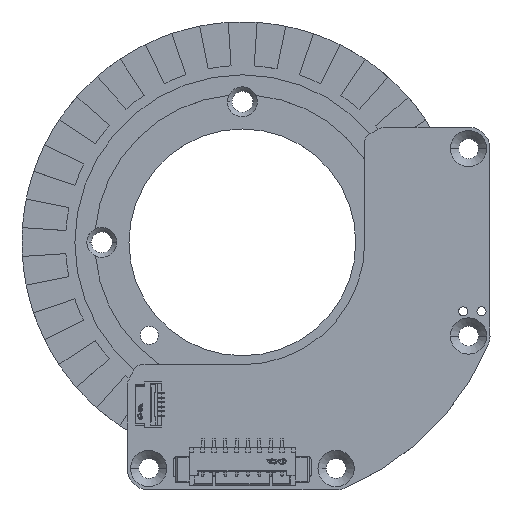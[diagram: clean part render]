
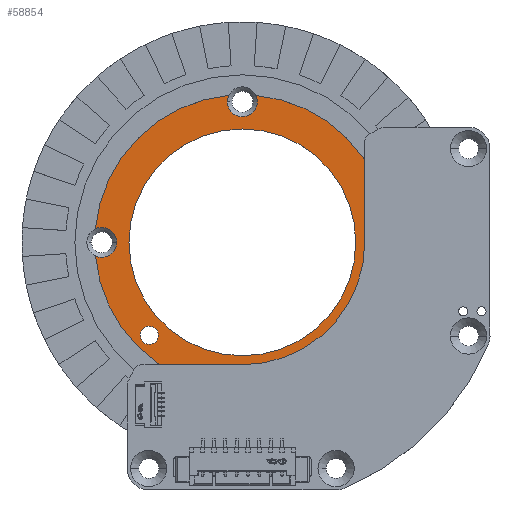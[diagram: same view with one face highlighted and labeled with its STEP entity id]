
A CAD part, top view. The second image highlights one B-rep face of the part: STEP entity #58854.
In plain terms, the highlighted planar face has unit normal (0, 0, 1) as drawn and (0, 1, 0) by its records, which use the part's own axes.
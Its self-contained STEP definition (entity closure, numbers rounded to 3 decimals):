
#56510=CARTESIAN_POINT('',(0.,1.,0.));
#56511=DIRECTION('',(0.,-1.,0.));
#56512=DIRECTION('',(1.,0.,0.));
#56513=AXIS2_PLACEMENT_3D('',#56510,#56511,#56512);
#56515=CARTESIAN_POINT('',(0.,1.,0.));
#56516=DIRECTION('',(0.,-1.,0.));
#56517=DIRECTION('',(-1.,0.,0.));
#56518=AXIS2_PLACEMENT_3D('',#56515,#56516,#56517);
#56712=CARTESIAN_POINT('',(10.253,1.,-10.253));
#56713=DIRECTION('',(0.,1.,0.));
#56714=DIRECTION('',(1.,0.,0.));
#56715=AXIS2_PLACEMENT_3D('',#56712,#56713,#56714);
#56717=CARTESIAN_POINT('',(10.253,1.,-10.253));
#56718=DIRECTION('',(0.,1.,0.));
#56719=DIRECTION('',(-1.,0.,0.));
#56720=AXIS2_PLACEMENT_3D('',#56717,#56718,#56719);
#56722=CARTESIAN_POINT('',(15.5,1.,0.));
#56723=DIRECTION('',(0.,-1.,0.));
#56724=DIRECTION('',(-1.,0.,0.));
#56725=AXIS2_PLACEMENT_3D('',#56722,#56723,#56724);
#56727=CARTESIAN_POINT('',(15.5,1.,0.));
#56728=DIRECTION('',(0.,-1.,0.));
#56729=DIRECTION('',(0.428,0.,0.904));
#56730=AXIS2_PLACEMENT_3D('',#56727,#56728,#56729);
#56732=CARTESIAN_POINT('',(0.,1.,15.5));
#56733=DIRECTION('',(0.,-1.,0.));
#56734=DIRECTION('',(1.,0.,0.));
#56735=AXIS2_PLACEMENT_3D('',#56732,#56733,#56734);
#56737=CARTESIAN_POINT('',(0.,1.,15.5));
#56738=DIRECTION('',(0.,-1.,0.));
#56739=DIRECTION('',(-1.,0.,0.));
#56740=AXIS2_PLACEMENT_3D('',#56737,#56738,#56739);
#56742=CARTESIAN_POINT('',(0.,1.,15.5));
#56743=DIRECTION('',(0.,-1.,0.));
#56744=DIRECTION('',(-0.904,0.,0.428));
#56745=AXIS2_PLACEMENT_3D('',#56742,#56743,#56744);
#56747=CARTESIAN_POINT('',(-15.5,1.,0.));
#56748=DIRECTION('',(0.,-1.,0.));
#56749=DIRECTION('',(1.,0.,0.));
#56750=AXIS2_PLACEMENT_3D('',#56747,#56748,#56749);
#56752=CARTESIAN_POINT('',(-15.5,1.,0.));
#56753=DIRECTION('',(0.,-1.,0.));
#56754=DIRECTION('',(-0.428,0.,-0.904));
#56755=AXIS2_PLACEMENT_3D('',#56752,#56753,#56754);
#56757=CARTESIAN_POINT('',(0.,1.,-15.5));
#56758=DIRECTION('',(0.,-1.,0.));
#56759=DIRECTION('',(-1.,0.,0.));
#56760=AXIS2_PLACEMENT_3D('',#56757,#56758,#56759);
#56762=CARTESIAN_POINT('',(0.,1.,-15.5));
#56763=DIRECTION('',(0.,-1.,0.));
#56764=DIRECTION('',(1.,0.,0.));
#56765=AXIS2_PLACEMENT_3D('',#56762,#56763,#56764);
#56767=CARTESIAN_POINT('',(0.,1.,-15.5));
#56768=DIRECTION('',(0.,-1.,0.));
#56769=DIRECTION('',(0.904,0.,-0.428));
#56770=AXIS2_PLACEMENT_3D('',#56767,#56768,#56769);
#57736=CARTESIAN_POINT('',(0.,1.,0.));
#57737=DIRECTION('',(0.,1.,0.));
#57738=DIRECTION('',(-0.092,0.,-0.996));
#57739=AXIS2_PLACEMENT_3D('',#57736,#57737,#57738);
#57790=CARTESIAN_POINT('',(0.,1.,0.));
#57791=DIRECTION('',(0.,1.,0.));
#57792=DIRECTION('',(-0.996,0.,0.092));
#57793=AXIS2_PLACEMENT_3D('',#57790,#57791,#57792);
#57839=CARTESIAN_POINT('',(0.,1.,0.));
#57840=DIRECTION('',(0.,1.,0.));
#57841=DIRECTION('',(0.092,0.,0.996));
#57842=AXIS2_PLACEMENT_3D('',#57839,#57840,#57841);
#57893=CARTESIAN_POINT('',(0.,1.,0.));
#57894=DIRECTION('',(0.,1.,0.));
#57895=DIRECTION('',(0.996,0.,-0.092));
#57896=AXIS2_PLACEMENT_3D('',#57893,#57894,#57895);
#57963=CARTESIAN_POINT('',(12.505,1.,0.));
#57964=CARTESIAN_POINT('',(-12.505,1.,0.));
#57965=VERTEX_POINT('',#57963);
#57966=VERTEX_POINT('',#57964);
#58375=CARTESIAN_POINT('',(-1.65,1.,15.5));
#58376=CARTESIAN_POINT('',(1.65,1.,15.5));
#58377=VERTEX_POINT('',#58375);
#58378=VERTEX_POINT('',#58376);
#58391=CARTESIAN_POINT('',(1.65,1.,-15.5));
#58392=CARTESIAN_POINT('',(-1.65,1.,-15.5));
#58393=VERTEX_POINT('',#58391);
#58394=VERTEX_POINT('',#58392);
#58395=CARTESIAN_POINT('',(13.85,1.,
0.));
#58396=VERTEX_POINT('',#58395);
#58397=CARTESIAN_POINT('',(-13.85,1.,
0.));
#58398=VERTEX_POINT('',#58397);
#58403=CARTESIAN_POINT('',(11.253,1.,-10.253));
#58404=CARTESIAN_POINT('',(9.253,1.,-10.253));
#58405=VERTEX_POINT('',#58403);
#58406=VERTEX_POINT('',#58404);
#58423=CARTESIAN_POINT('',(1.491,1.,-16.207));
#58424=CARTESIAN_POINT('',(-1.491,1.,-16.207));
#58425=VERTEX_POINT('',#58423);
#58426=VERTEX_POINT('',#58424);
#58427=CARTESIAN_POINT('',(16.207,1.,1.491));
#58429=VERTEX_POINT('',#58427);
#58431=CARTESIAN_POINT('',(16.207,1.,-1.491));
#58432=VERTEX_POINT('',#58431);
#58433=CARTESIAN_POINT('',(-1.491,1.,16.207));
#58434=CARTESIAN_POINT('',(1.491,1.,16.207));
#58435=VERTEX_POINT('',#58433);
#58436=VERTEX_POINT('',#58434);
#58437=CARTESIAN_POINT('',(-16.207,1.,-1.491));
#58439=VERTEX_POINT('',#58437);
#58441=CARTESIAN_POINT('',(-16.207,1.,1.491));
#58442=VERTEX_POINT('',#58441);
#58807=CARTESIAN_POINT('',(0.,1.,0.));
#58808=DIRECTION('',(0.,1.,0.));
#58809=DIRECTION('',(0.139,0.,-0.99));
#58810=AXIS2_PLACEMENT_3D('',#58807,#58808,#58809);
#58811=PLANE('',#58810);
#58813=ORIENTED_EDGE('',*,*,#58812,.F.);
#58815=ORIENTED_EDGE('',*,*,#58814,.F.);
#58817=ORIENTED_EDGE('',*,*,#58816,.F.);
#58819=ORIENTED_EDGE('',*,*,#58818,.F.);
#58821=ORIENTED_EDGE('',*,*,#58820,.F.);
#58823=ORIENTED_EDGE('',*,*,#58822,.F.);
#58825=ORIENTED_EDGE('',*,*,#58824,.F.);
#58827=ORIENTED_EDGE('',*,*,#58826,.F.);
#58829=ORIENTED_EDGE('',*,*,#58828,.F.);
#58831=ORIENTED_EDGE('',*,*,#58830,.F.);
#58833=ORIENTED_EDGE('',*,*,#58832,.F.);
#58835=ORIENTED_EDGE('',*,*,#58834,.F.);
#58837=ORIENTED_EDGE('',*,*,#58836,.F.);
#58839=ORIENTED_EDGE('',*,*,#58838,.F.);
#58840=EDGE_LOOP('',(#58813,#58815,#58817,#58819,#58821,#58823,#58825,#58827,
#58829,#58831,#58833,#58835,#58837,#58839));
#58841=FACE_OUTER_BOUND('',#58840,.F.);
#58843=ORIENTED_EDGE('',*,*,#58842,.F.);
#58845=ORIENTED_EDGE('',*,*,#58844,.F.);
#58846=EDGE_LOOP('',(#58843,#58845));
#58847=FACE_BOUND('',#58846,.F.);
#58849=ORIENTED_EDGE('',*,*,#58848,.T.);
#58851=ORIENTED_EDGE('',*,*,#58850,.T.);
#58852=EDGE_LOOP('',(#58849,#58851));
#58853=FACE_BOUND('',#58852,.F.);
#58854=ADVANCED_FACE('',(#58841,#58847,#58853),#58811,.T.);
#56514=CIRCLE('',#56513,12.505);
#56519=CIRCLE('',#56518,12.505);
#56716=CIRCLE('',#56715,1.);
#56721=CIRCLE('',#56720,1.);
#56726=CIRCLE('',#56725,1.65);
#56731=CIRCLE('',#56730,1.65);
#56736=CIRCLE('',#56735,1.65);
#56741=CIRCLE('',#56740,1.65);
#56746=CIRCLE('',#56745,1.65);
#56751=CIRCLE('',#56750,1.65);
#56756=CIRCLE('',#56755,1.65);
#56761=CIRCLE('',#56760,1.65);
#56766=CIRCLE('',#56765,1.65);
#56771=CIRCLE('',#56770,1.65);
#57740=CIRCLE('',#57739,16.275);
#57794=CIRCLE('',#57793,16.275);
#57843=CIRCLE('',#57842,16.275);
#57897=CIRCLE('',#57896,16.275);
#58812=EDGE_CURVE('',#58432,#58425,#57897,.T.);
#58814=EDGE_CURVE('',#58396,#58432,#56726,.T.);
#58816=EDGE_CURVE('',#58429,#58396,#56731,.T.);
#58818=EDGE_CURVE('',#58436,#58429,#57843,.T.);
#58820=EDGE_CURVE('',#58378,#58436,#56736,.T.);
#58822=EDGE_CURVE('',#58377,#58378,#56741,.T.);
#58824=EDGE_CURVE('',#58435,#58377,#56746,.T.);
#58826=EDGE_CURVE('',#58442,#58435,#57794,.T.);
#58828=EDGE_CURVE('',#58398,#58442,#56751,.T.);
#58830=EDGE_CURVE('',#58439,#58398,#56756,.T.);
#58832=EDGE_CURVE('',#58426,#58439,#57740,.T.);
#58834=EDGE_CURVE('',#58394,#58426,#56761,.T.);
#58836=EDGE_CURVE('',#58393,#58394,#56766,.T.);
#58838=EDGE_CURVE('',#58425,#58393,#56771,.T.);
#58842=EDGE_CURVE('',#57965,#57966,#56514,.T.);
#58844=EDGE_CURVE('',#57966,#57965,#56519,.T.);
#58848=EDGE_CURVE('',#58405,#58406,#56716,.T.);
#58850=EDGE_CURVE('',#58406,#58405,#56721,.T.);
